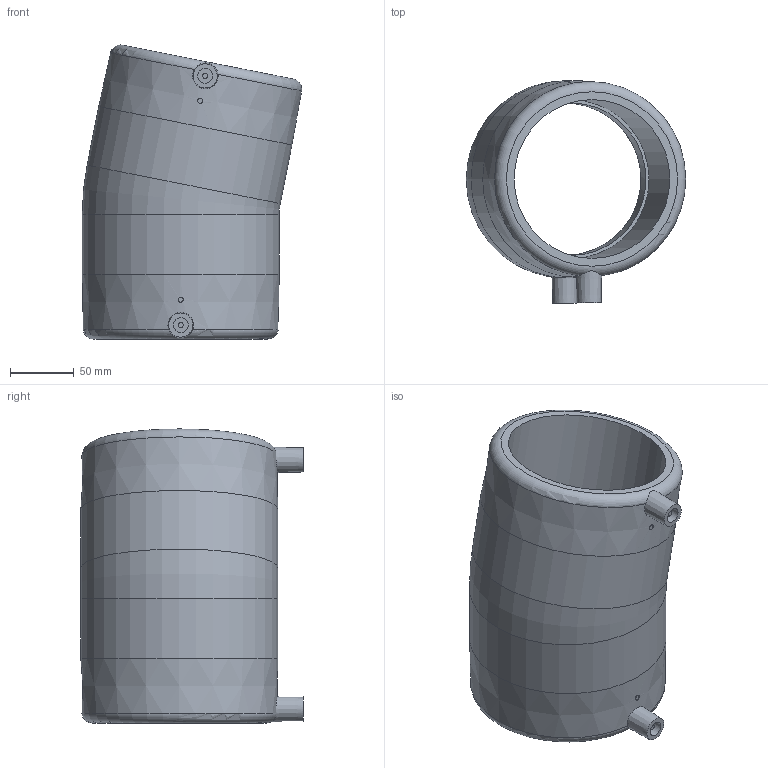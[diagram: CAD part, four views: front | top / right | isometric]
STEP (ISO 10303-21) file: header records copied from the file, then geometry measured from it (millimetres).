
FILE_DESCRIPTION(/* description */ ('Unknown'),/* implementation_level */ '2;1');
FILE_NAME(/* name */ 'GE1125P125C',/* time_stamp */ '2020-11-30T15:40:16+01:00',/* author */ ('Unknown'),/* organization */ ('Unknown'),/* preprocessor_version */ 'ST-DEVELOPER v16.7',/* originating_system */ 'Solid Edge',/* authorisation */ 'Unknown');
FILE_SCHEMA (('AUTOMOTIVE_DESIGN {1 0 10303 214 3 1 1}'));
Length unit declared in the file: millimetre
Products named in the file (1): GE1125P125C
Bounding box: 172.73 x 175 x 231.43 mm (x, y, z)
Volume: 1473847.4 mm3; surface area: 207272.7 mm2
Topology: 1 solids, 1 shells, 32 faces, 75 edges, 53 vertices
Faces by surface type: plane 12, cylinder 12, torus 4, cone 4
Full cylindrical faces by diameter (mm): 4 x4, 11.7 x2, 120 x2, 125 x2, 155 x2
Entity records: 842 total; most frequent: CARTESIAN_POINT 190, DIRECTION 140, ORIENTED_EDGE 90, AXIS2_PLACEMENT_3D 70, EDGE_LOOP 61, FACE_BOUND 61, EDGE_CURVE 45, VERTEX_POINT 42
